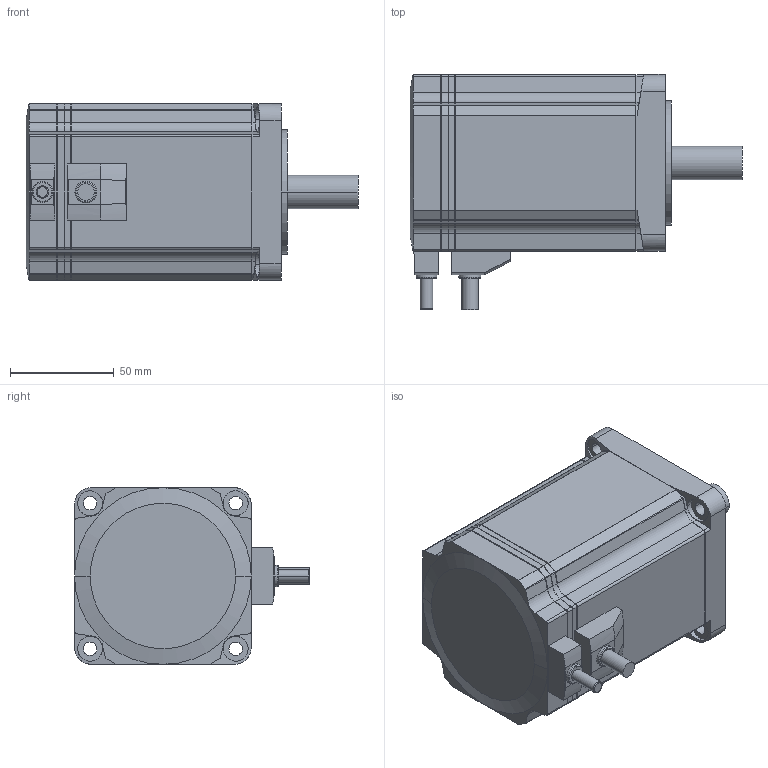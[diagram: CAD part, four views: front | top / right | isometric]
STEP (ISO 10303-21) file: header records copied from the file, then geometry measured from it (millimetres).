
FILE_DESCRIPTION( ( '' ), '1' );
FILE_NAME( '//partserver001.servicenet/client_exchange/iodir/jobs/output/wkb40002510_no0/STEP/nx975as_1_0__2_03.stp', '2011-12-12T08:28:54', ( '' ), ( '' ), ' ', ' ', ' ' );
FILE_SCHEMA( ( 'CONFIG_CONTROL_DESIGN' ) );
Length unit declared in the file: millimetre
Products named in the file (1): 1
Bounding box: 159.7 x 113 x 85 mm (x, y, z)
Volume: 820699.4 mm3; surface area: 58004.4 mm2
Topology: 1 solids, 1 shells, 362 faces, 1020 edges, 677 vertices
Faces by surface type: plane 204, cylinder 148, torus 6, cone 4
Entity records: 11947 total; most frequent: CARTESIAN_POINT 2220, DIRECTION 2051, ORIENTED_EDGE 2040, EDGE_CURVE 1020, LINE 691, VECTOR 691, AXIS2_PLACEMENT_3D 680, VERTEX_POINT 677
